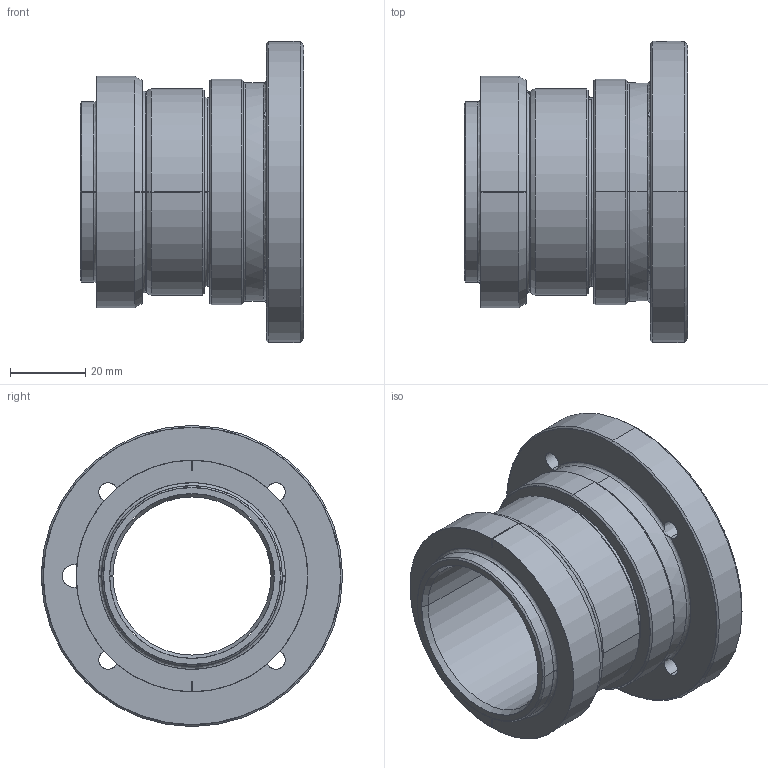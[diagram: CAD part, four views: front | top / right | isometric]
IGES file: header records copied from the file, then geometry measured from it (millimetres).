
Start section: SolidWorks IGES file using analytic representation for surfaces
Global section: file name: C:\2\Original\IRB1520ID_4_150__02_link6_iges_j.IGS; native system: SolidWorks 2010; preprocessor: SolidWorks 2010; author: CNWESUN5; date: 130409.130715; units: millimetre
Bounding box: 59.5 x 80 x 80 mm (x, y, z)
Surface area: 35278.1 mm2 (no closed solid volume)
Topology: 0 solids, 0 shells, 116 faces, 1923 edges, 1921 vertices
Faces by surface type: revolution 83, bspline 33
